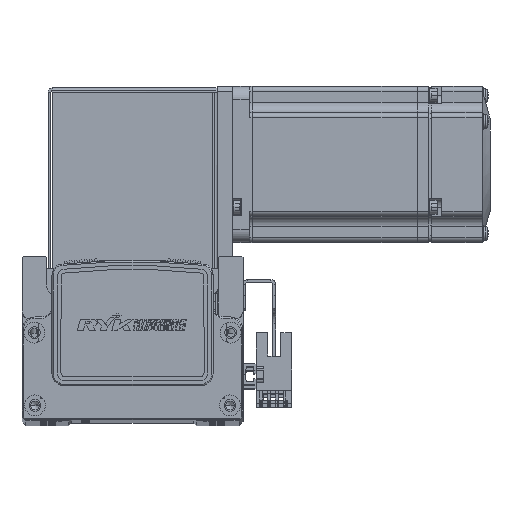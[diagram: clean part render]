
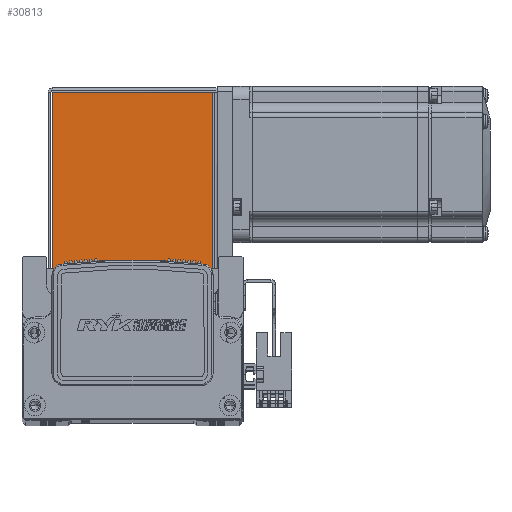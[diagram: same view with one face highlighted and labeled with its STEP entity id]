
A CAD part, top view. The second image highlights one B-rep face of the part: STEP entity #30813.
In plain terms, the highlighted planar face has unit normal (0, 0, 1) as drawn and (0, 0, -1) by its records, which use the part's own axes.
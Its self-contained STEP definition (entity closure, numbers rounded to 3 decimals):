
#8729 = CARTESIAN_POINT ( 'NONE',  ( 30.763, 68.5, -35. ) ) ;
#8734 = CARTESIAN_POINT ( 'NONE',  ( 30.763, 0.737, -35. ) ) ;
#8823 = CARTESIAN_POINT ( 'NONE',  ( -30.793, 68.5, -35. ) ) ;
#8845 = CARTESIAN_POINT ( 'NONE',  ( -30.793, 0.737, -35. ) ) ;
#10238 = ORIENTED_EDGE ( 'NONE', *, *, #36187, .T. ) ;
#10252 = ORIENTED_EDGE ( 'NONE', *, *, #36244, .F. ) ;
#10264 = ORIENTED_EDGE ( 'NONE', *, *, #36203, .T. ) ;
#10286 = ORIENTED_EDGE ( 'NONE', *, *, #36221, .T. ) ;
#30813 = ADVANCED_FACE ( 'NONE', ( #76306 ), #73586, .F. ) ;
#36187 = EDGE_CURVE ( 'NONE', #77756, #77754, #79044, .T. ) ;
#36203 = EDGE_CURVE ( 'NONE', #77754, #77651, #79014, .T. ) ;
#36221 = EDGE_CURVE ( 'NONE', #77651, #77672, #79062, .T. ) ;
#36244 = EDGE_CURVE ( 'NONE', #77756, #77672, #79101, .T. ) ;
#51347 = AXIS2_PLACEMENT_3D ( 'NONE', #73595, #73567, #73573 ) ;
#72034 = EDGE_LOOP ( 'NONE', ( #10286, #10252, #10238, #10264 ) ) ;
#73567 = DIRECTION ( 'NONE',  ( 0., 0., 1. ) ) ;
#73569 = CARTESIAN_POINT ( 'NONE',  ( -30.793, 0., -35. ) ) ;
#73573 = DIRECTION ( 'NONE',  ( 0., -1., 0. ) ) ;
#73586 = PLANE ( 'NONE',  #51347 ) ;
#73595 = CARTESIAN_POINT ( 'NONE',  ( 0., 0., -35. ) ) ;
#73609 = DIRECTION ( 'NONE',  ( 0., 1., 0. ) ) ;
#73634 = CARTESIAN_POINT ( 'NONE',  ( 0., 68.5, -35. ) ) ;
#73712 = DIRECTION ( 'NONE',  ( 1., 0., 0. ) ) ;
#73787 = CARTESIAN_POINT ( 'NONE',  ( 30.763, 68.5, -35. ) ) ;
#73790 = DIRECTION ( 'NONE',  ( 0., -1., 0. ) ) ;
#74014 = CARTESIAN_POINT ( 'NONE',  ( 32.5, 0.737, -35. ) ) ;
#74022 = DIRECTION ( 'NONE',  ( 1., 0., 0. ) ) ;
#76306 = FACE_OUTER_BOUND ( 'NONE', #72034, .T. ) ;
#77651 = VERTEX_POINT ( 'NONE', #8729 ) ;
#77672 = VERTEX_POINT ( 'NONE', #8734 ) ;
#77754 = VERTEX_POINT ( 'NONE', #8823 ) ;
#77756 = VERTEX_POINT ( 'NONE', #8845 ) ;
#78997 = VECTOR ( 'NONE', #73712, 1000. ) ;
#79013 = VECTOR ( 'NONE', #73609, 1000. ) ;
#79014 = LINE ( 'NONE', #73634, #78997 ) ;
#79044 = LINE ( 'NONE', #73569, #79013 ) ;
#79056 = VECTOR ( 'NONE', #73790, 1000. ) ;
#79062 = LINE ( 'NONE', #73787, #79056 ) ;
#79101 = LINE ( 'NONE', #74014, #79112 ) ;
#79112 = VECTOR ( 'NONE', #74022, 1000. ) ;
